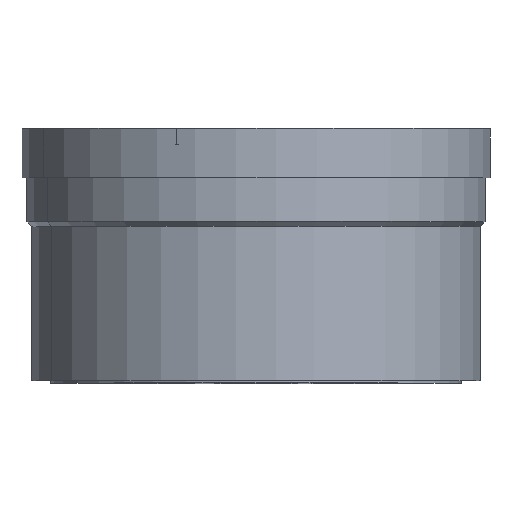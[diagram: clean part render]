
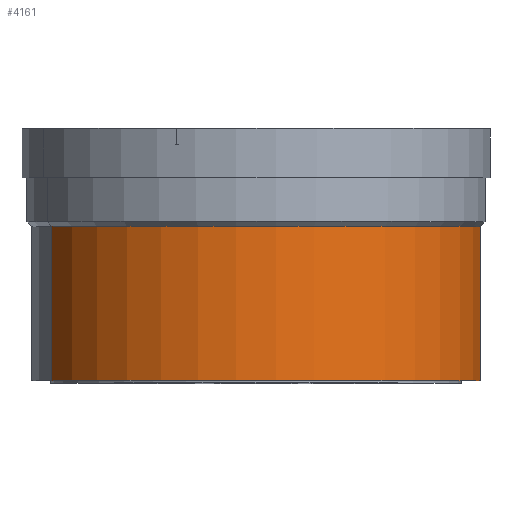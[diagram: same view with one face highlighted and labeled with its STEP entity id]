
A CAD part, top view. The second image highlights one B-rep face of the part: STEP entity #4161.
In plain terms, the highlighted cylindrical face has radius 46 mm (diameter 92 mm), a partial arc.
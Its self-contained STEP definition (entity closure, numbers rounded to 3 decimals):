
#432=CARTESIAN_POINT('',(0.,-3.,0.));
#433=DIRECTION('',(0.,1.,0.));
#434=DIRECTION('',(-0.906,0.,0.423));
#435=AXIS2_PLACEMENT_3D('',#432,#433,#434);
#437=DIRECTION('',(0.,-1.,0.));
#438=VECTOR('',#437,31.5);
#439=CARTESIAN_POINT('',(-41.69,-3.,19.44));
#440=LINE('',#439,#438);
#441=DIRECTION('',(0.,1.,0.));
#442=VECTOR('',#441,31.5);
#443=CARTESIAN_POINT('',(41.69,-34.5,-19.44));
#444=LINE('',#443,#442);
#455=CARTESIAN_POINT('',(0.,-34.5,0.));
#456=DIRECTION('',(0.,1.,0.));
#457=DIRECTION('',(-0.906,0.,0.423));
#458=AXIS2_PLACEMENT_3D('',#455,#456,#457);
#3133=CARTESIAN_POINT('',(-41.69,-3.,
19.44));
#3135=VERTEX_POINT('',#3133);
#3138=CARTESIAN_POINT('',(41.69,-3.,-19.44));
#3140=VERTEX_POINT('',#3138);
#3141=CARTESIAN_POINT('',(-41.69,-34.5,19.44));
#3142=VERTEX_POINT('',#3141);
#3143=CARTESIAN_POINT('',(41.69,-34.5,-19.44));
#3144=VERTEX_POINT('',#3143);
#4147=CARTESIAN_POINT('',(0.,-35.13,0.));
#4148=DIRECTION('',(0.,1.,0.));
#4149=DIRECTION('',(0.906,0.,-0.423));
#4150=AXIS2_PLACEMENT_3D('',#4147,#4148,#4149);
#4151=CYLINDRICAL_SURFACE('',#4150,46.);
#4153=ORIENTED_EDGE('',*,*,#4152,.F.);
#4154=ORIENTED_EDGE('',*,*,#4142,.T.);
#4156=ORIENTED_EDGE('',*,*,#4155,.F.);
#4158=ORIENTED_EDGE('',*,*,#4157,.F.);
#4159=EDGE_LOOP('',(#4153,#4154,#4156,#4158));
#4160=FACE_OUTER_BOUND('',#4159,.F.);
#436=CIRCLE('',#435,46.);
#459=CIRCLE('',#458,46.);
#4142=EDGE_CURVE('',#3135,#3140,#436,.T.);
#4152=EDGE_CURVE('',#3135,#3142,#440,.T.);
#4155=EDGE_CURVE('',#3144,#3140,#444,.T.);
#4157=EDGE_CURVE('',#3142,#3144,#459,.T.);
#4161=ADVANCED_FACE('',(#4160),#4151,.T.);
